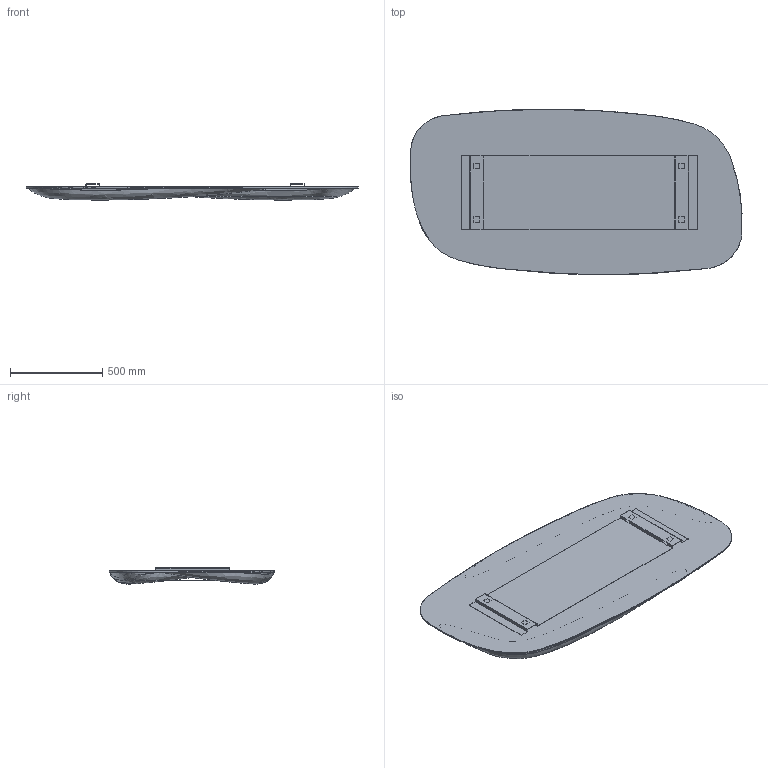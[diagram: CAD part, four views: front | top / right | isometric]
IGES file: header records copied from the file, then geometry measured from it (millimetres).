
Start section: SolidWorks IGES file using analytic representation for surfaces
Global section: file name: Y:\eforma\TECNICO\SOLIDWORKS\E-FORMA\4-SPECCHI\ASTRUM\AST02_Astrum_180x90.IGS; native system: SolidWorks 2022; preprocessor: SolidWorks 2022; author: eforma.tech; date: 240806.091917; units: millimetre
Bounding box: 1800.68 x 897.96 x 87.55 mm (x, y, z)
Volume: 791929.9 mm3; surface area: 6659762 mm2
Topology: 1 solids, 1 shells, 185 faces, 1228 edges, 1092 vertices
Faces by surface type: plane 94, revolution 76, bspline 15
